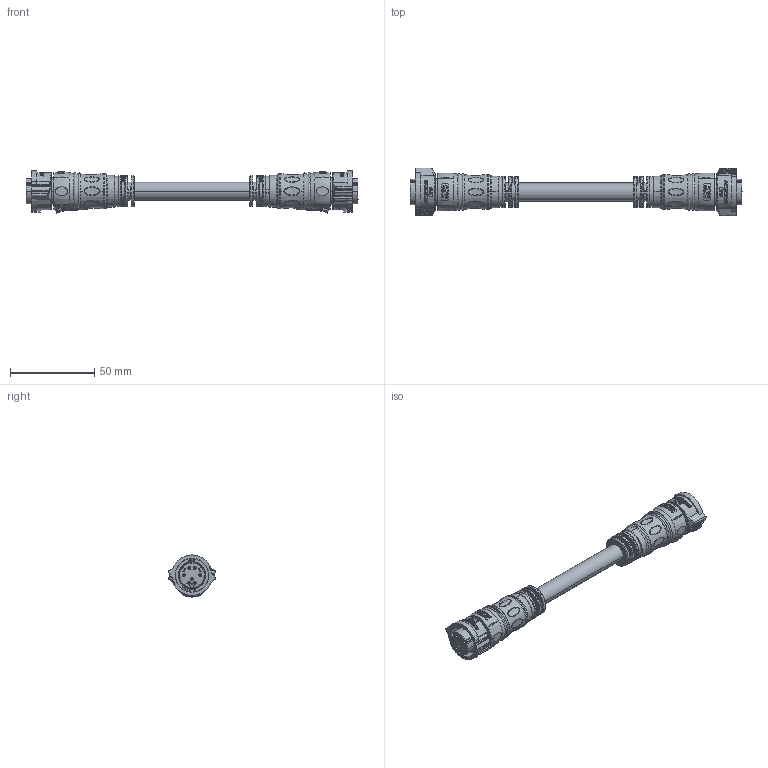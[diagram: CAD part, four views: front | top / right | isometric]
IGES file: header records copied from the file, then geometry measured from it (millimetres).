
Start section:  PTC IGES file: ab-cd07fl-cdfl-qdxxx_sw0001.igs
Global section: file name: ab-cd07fl-cdfl-qdxxx_sw0001.igs; native system: Creo Parametric by Parametric Technology Corporation; preprocessor: 2017170; author: L100003; organization: Unknown; date: 20211025.145514; units: millimetre
Bounding box: 196.6 x 28 x 24.88 mm (x, y, z)
Volume: 45072.1 mm3; surface area: 19029.9 mm2
Topology: 5 solids, 7 shells, 2294 faces, 6112 edges, 3950 vertices
Faces by surface type: bspline 1288, revolution 614, extrusion 392
